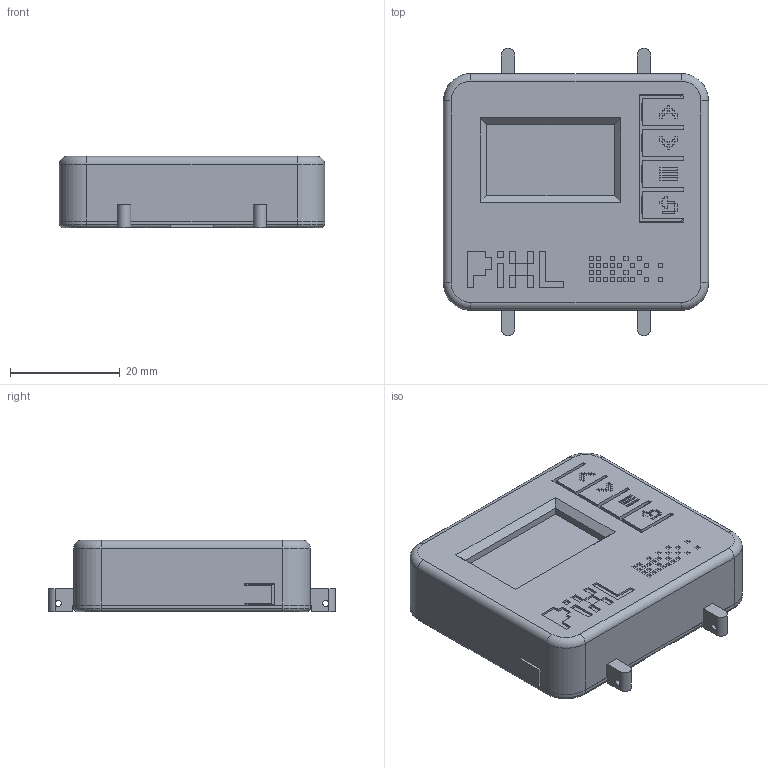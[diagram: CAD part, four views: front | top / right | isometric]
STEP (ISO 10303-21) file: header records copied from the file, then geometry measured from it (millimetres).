
FILE_DESCRIPTION(/* description */ (''),/* implementation_level */ '2;1');
FILE_NAME(/* name */ 'PIXL_case_v10_22mm_assembly.step',/* time_stamp */ '2026-11-07T12:11:58+01:00',/* author */ (''),/* organization */ (''),/* preprocessor_version */ 'ST-DEVELOPER v20.2',/* originating_system */ 'Autodesk Translation Framework v15.17.0.0',/* authorisation */ '');
FILE_SCHEMA (('AUTOMOTIVE_DESIGN { 1 0 10303 214 3 1 1 }'));
Length unit declared in the file: millimetre
Products named in the file (5): PIXL case; 0.96Oled_W_4_Buttons; PIXL Shell v10 22mm; PIXL Back v10 22mm; Internals v10 (reference)
Assembly tree (4 placements, depth 2):
  PIXL case
    0.96Oled_W_4_Buttons
    PIXL Shell v10 22mm
    PIXL Back v10 22mm
    Internals v10 (reference)
Bounding box: 48.4 x 52.4 x 13 mm (x, y, z)
Volume: 17747.1 mm3; surface area: 21200 mm2
Topology: 10 solids, 10 shells, 1542 faces, 4004 edges, 2614 vertices
Faces by surface type: plane 1048, bspline 404, cylinder 82, torus 8
Full cylindrical faces by diameter (mm): 1.1 x4, 1.6 x3, 2 x4, 2.4 x8, 3 x4, 10 x1, 20 x1, 20.6 x1
Entity records: 50464 total; most frequent: CARTESIAN_POINT 15037, ORIENTED_EDGE 8008, DIRECTION 5668, EDGE_CURVE 4004, LINE 3018, VECTOR 3018, VERTEX_POINT 2614, EDGE_LOOP 1702
